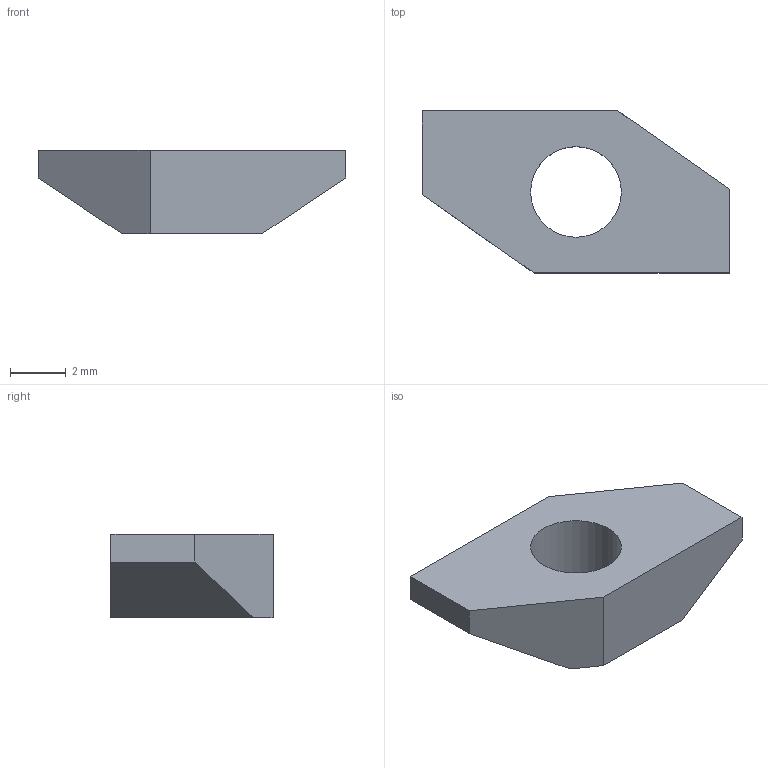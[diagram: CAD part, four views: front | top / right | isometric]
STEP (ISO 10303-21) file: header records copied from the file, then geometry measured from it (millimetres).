
FILE_DESCRIPTION((''),'2;1');
FILE_NAME('E:\catalogue and flyer\Profile catalogue 2015\Accessories JE info\Accessories-JE step file 31MAr16\JE-LN4-6.stp','2016-03-31T16:15:58',('h029'),(''),'Autodesk Inventor 11','Autodesk Inventor 11','');
FILE_SCHEMA(('AUTOMOTIVE_DESIGN { 1 0 10303 214 1 1 1 1 }'));
Length unit declared in the file: millimetre
Products named in the file (1): JE-LN4-6
Bounding box: 11 x 5.8 x 3 mm (x, y, z)
Volume: 110.8 mm3; surface area: 188.1 mm2
Topology: 1 solids, 1 shells, 11 faces, 28 edges, 19 vertices
Faces by surface type: plane 10, bspline 1
Entity records: 358 total; most frequent: CARTESIAN_POINT 73, ORIENTED_EDGE 52, DIRECTION 50, EDGE_CURVE 26, VECTOR 24, LINE 24, VERTEX_POINT 18, EDGE_LOOP 14
